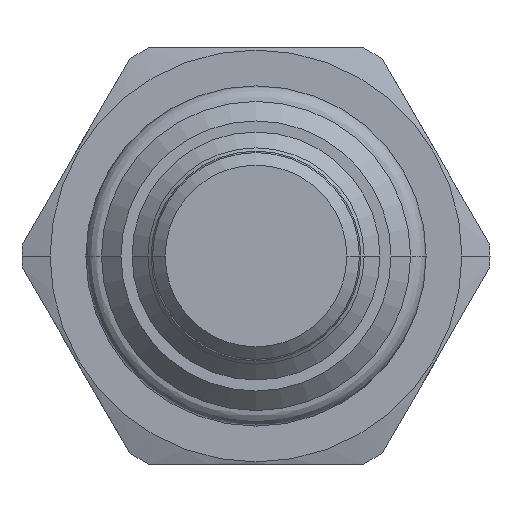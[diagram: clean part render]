
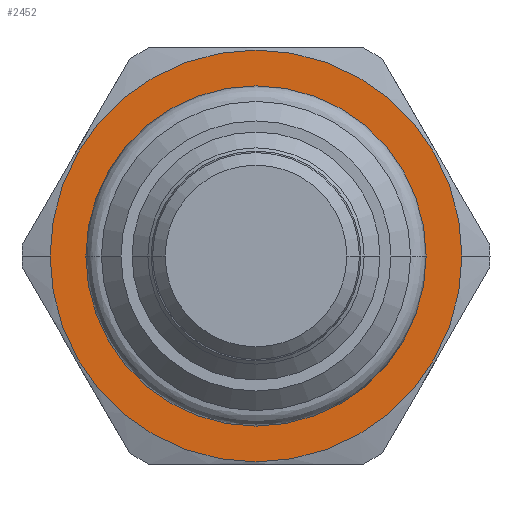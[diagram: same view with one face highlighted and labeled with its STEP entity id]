
A CAD part, front view. The second image highlights one B-rep face of the part: STEP entity #2452.
In plain terms, the highlighted planar face has unit normal (0, -1, 0).
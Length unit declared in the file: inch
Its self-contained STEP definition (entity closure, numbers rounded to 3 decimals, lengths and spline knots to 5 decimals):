
#609=CARTESIAN_POINT('',(0.,0.,0.));
#610=DIRECTION('',(0.,1.,0.));
#611=DIRECTION('',(1.,0.,0.));
#612=AXIS2_PLACEMENT_3D('',#609,#610,#611);
#614=CARTESIAN_POINT('',(0.,0.,0.));
#615=DIRECTION('',(0.,-1.,0.));
#616=DIRECTION('',(1.,0.,0.));
#617=AXIS2_PLACEMENT_3D('',#614,#615,#616);
#624=CARTESIAN_POINT('',(0.,0.,0.));
#625=DIRECTION('',(0.,-1.,0.));
#626=DIRECTION('',(-1.,0.,0.));
#627=AXIS2_PLACEMENT_3D('',#624,#625,#626);
#667=CARTESIAN_POINT('',(0.,0.,0.));
#668=DIRECTION('',(0.,-1.,0.));
#669=DIRECTION('',(1.,0.,0.));
#670=AXIS2_PLACEMENT_3D('',#667,#668,#669);
#1561=CARTESIAN_POINT('',(0.495,0.,0.));
#1562=CARTESIAN_POINT('',(-0.495,0.,0.));
#1563=VERTEX_POINT('',#1561);
#1564=VERTEX_POINT('',#1562);
#1597=CARTESIAN_POINT('',(-0.354,0.,0.));
#1598=CARTESIAN_POINT('',(0.354,0.,0.));
#1599=VERTEX_POINT('',#1597);
#1600=VERTEX_POINT('',#1598);
#2437=CARTESIAN_POINT('',(0.,0.,0.));
#2438=DIRECTION('',(0.,1.,0.));
#2439=DIRECTION('',(1.,0.,0.));
#2440=AXIS2_PLACEMENT_3D('',#2437,#2438,#2439);
#2441=PLANE('',#2440);
#2442=ORIENTED_EDGE('',*,*,#2151,.T.);
#2443=ORIENTED_EDGE('',*,*,#2276,.F.);
#2444=EDGE_LOOP('',(#2442,#2443));
#2445=FACE_OUTER_BOUND('',#2444,.F.);
#2447=ORIENTED_EDGE('',*,*,#2446,.T.);
#2449=ORIENTED_EDGE('',*,*,#2448,.T.);
#2450=EDGE_LOOP('',(#2447,#2449));
#2451=FACE_BOUND('',#2450,.F.);
#2452=ADVANCED_FACE('',(#2445,#2451),#2441,.F.);
#613=CIRCLE('',#612,0.495);
#618=CIRCLE('',#617,0.495);
#628=CIRCLE('',#627,0.354);
#671=CIRCLE('',#670,0.354);
#2151=EDGE_CURVE('',#1563,#1564,#613,.T.);
#2276=EDGE_CURVE('',#1563,#1564,#618,.T.);
#2446=EDGE_CURVE('',#1599,#1600,#628,.T.);
#2448=EDGE_CURVE('',#1600,#1599,#671,.T.);
